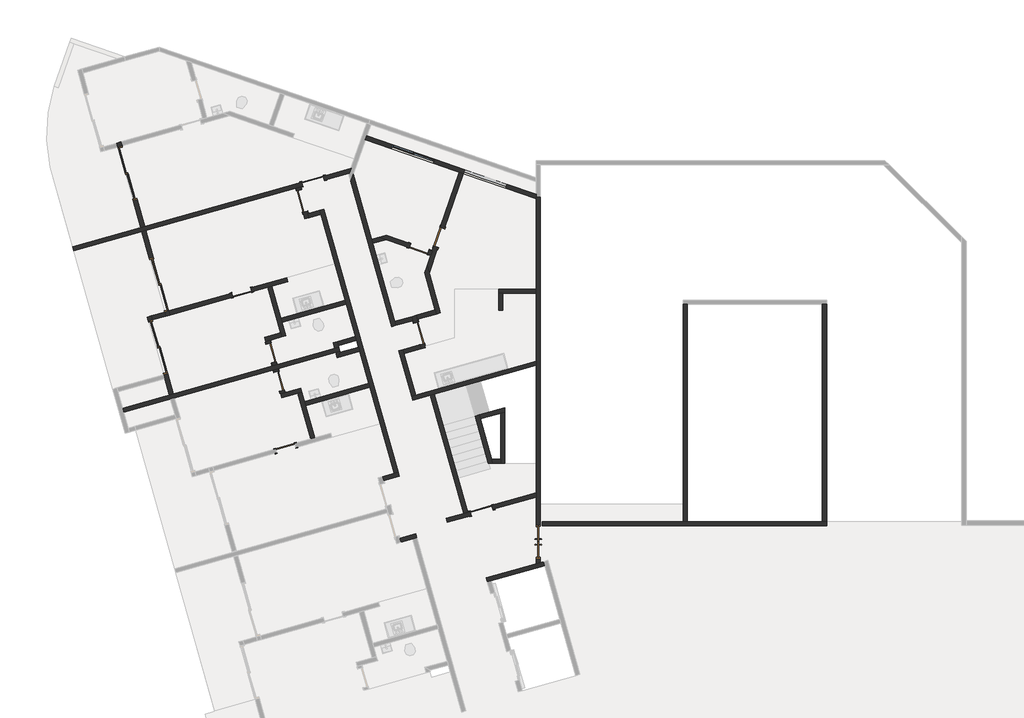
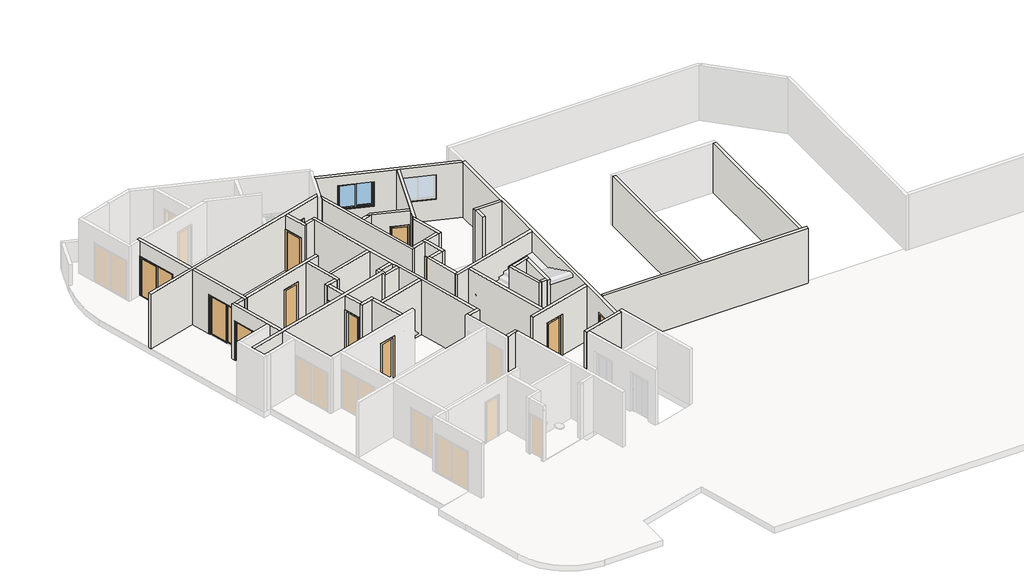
# One storey, part 2 of 9: 49 walls, 14 doors, 1 window.
"""IFC4 building model written with IfcOpenShell, lengths in millimetres."""

from ifc_helpers import new_model, si_unit, frame, origin, place, context, project, spatial, polyline, outline, extrude, faceted_brep, transform, mapped, element, save
from components import door_1_20_x_2_10_046a985c, p2_80cm_9d4be4ef, p2_80cm_083652d6, p3_70cm_ef4d15e3, p3_70cm_0a698c7c, p4_correr_200cm_eaaa0877, jx_160cm_e9e36a0c

model = new_model("IFC4")

# Units and contexts
model_context = context("Model", 3, world=origin())
ifc_project = project(units=[si_unit("LENGTHUNIT", "METRE", prefix="MILLI")], contexts=[model_context])

# Site, building, storey
site = spatial("IfcSite", under=ifc_project)
building = spatial("IfcBuilding", under=site)
storey = spatial("IfcBuildingStorey", under=building, Name="Garagem 1", Elevation=47850.0)

# Doors
placement = place(None, origin())
door_1_20_x_2_10_shape = door_1_20_x_2_10_046a985c(model_context)
element("IfcDoor", 1, ObjectType="Porta pivotante dupla sem revestimento : 1.20 x 2.10", at=placement, inside=storey, context=model_context, shape_type="MappedRepresentation", body=[
    mapped(door_1_20_x_2_10_shape, transform((-75072.8282189, 18002.5140353, 47850.0), x_axis=(0.0, -1.0, 0.0), y_axis=(1.0, 0.0, 0.0), z_axis=(0.0, 0.0, 1.0))),
])
p2_80cm_shape = p2_80cm_9d4be4ef(model_context)
element("IfcDoor", 2, ObjectType="M_Folha única1 : P2 - 80CM", at=placement, inside=storey, context=model_context, shape_type="MappedRepresentation", body=[
    mapped(p2_80cm_shape, transform((-83145.1128896, 30941.0402894, 47850.0), x_axis=(-0.9623628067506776, -0.2717679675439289, 0.0), y_axis=(0.2717679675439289, -0.9623628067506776, 0.0), z_axis=(0.0, 0.0, 1.0))),
])
element("IfcDoor", 3, ObjectType="M_Folha única1 : P2 - 80CM", at=placement, inside=storey, context=model_context, shape_type="MappedRepresentation", body=[
    mapped(p2_80cm_shape, transform((-79349.4097406, 25479.1041247, 47850.0), x_axis=(-0.27176796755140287, 0.962362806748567, 0.0), y_axis=(-0.962362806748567, -0.27176796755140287, 0.0), z_axis=(0.0, 0.0, 1.0))),
])
p2_80cm_2_shape = p2_80cm_083652d6(model_context)
element("IfcDoor", 4, ObjectType="M_Folha única1 : P2 - 80CM", at=placement, inside=storey, context=model_context, shape_type="MappedRepresentation", body=[
    mapped(p2_80cm_2_shape, transform((-83542.2049222, 30231.4150941, 47850.0), x_axis=(-0.2717679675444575, 0.9623628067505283, 0.0), y_axis=(-0.9623628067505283, -0.2717679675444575, 0.0), z_axis=(0.0, 0.0, 1.0))),
])
p3_70cm_shape = p3_70cm_ef4d15e3(model_context)
element("IfcDoor", 5, ObjectType="M_Folha única1 : P3 - 70CM", at=placement, inside=storey, context=model_context, shape_type="MappedRepresentation", body=[
    mapped(p3_70cm_shape, transform((-84129.1775441, 21363.1168842, 47850.0), x_axis=(0.9623628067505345, 0.27176796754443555, 0.0), y_axis=(-0.27176796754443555, 0.9623628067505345, 0.0), z_axis=(0.0, 0.0, 1.0))),
])
element("IfcDoor", 6, ObjectType="M_Folha única1 : P3 - 70CM", at=placement, inside=storey, context=model_context, shape_type="MappedRepresentation", body=[
    mapped(p3_70cm_shape, transform((-84650.97864, 24774.7108835, 47850.0), x_axis=(0.2717679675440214, -0.9623628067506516, 0.0), y_axis=(0.9623628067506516, 0.2717679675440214, 0.0), z_axis=(0.0, 0.0, 1.0))),
])
p3_70cm_2_shape = p3_70cm_0a698c7c(model_context)
element("IfcDoor", 7, ObjectType="M_Folha única1 : P3 - 70CM", at=placement, inside=storey, context=model_context, shape_type="MappedRepresentation", body=[
    mapped(p3_70cm_2_shape, transform((-84365.6222741, 23764.2299364, 47850.0), x_axis=(-0.2717679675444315, 0.9623628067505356, 0.0), y_axis=(-0.9623628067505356, -0.2717679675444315, 0.0), z_axis=(0.0, 0.0, 1.0))),
])
element("IfcDoor", 8, ObjectType="M_Folha única1 : P3 - 70CM", at=placement, inside=storey, context=model_context, shape_type="MappedRepresentation", body=[
    mapped(p3_70cm_2_shape, transform((-85705.4317558, 26944.8211633, 47850.0), x_axis=(0.9623628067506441, 0.2717679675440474, 0.0), y_axis=(-0.2717679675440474, 0.9623628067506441, 0.0), z_axis=(0.0, 0.0, 1.0))),
])
element("IfcDoor", 9, ObjectType="M_Folha única1 : P3 - 70CM", at=placement, inside=storey, context=model_context, shape_type="MappedRepresentation", body=[
    mapped(p3_70cm_2_shape, transform((-79346.1223746, 28509.6973665, 47850.0), x_axis=(0.9449109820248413, -0.32732741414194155, 0.0), y_axis=(0.32732741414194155, 0.9449109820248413, 0.0), z_axis=(0.0, 0.0, 1.0))),
])
element("IfcDoor", 10, ObjectType="M_Folha única1 : P3 - 70CM", at=placement, inside=storey, context=model_context, shape_type="MappedRepresentation", body=[
    mapped(p3_70cm_2_shape, transform((-78626.5662556, 28921.8732895, 47850.0), x_axis=(-0.32732741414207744, -0.9449109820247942, 0.0), y_axis=(0.9449109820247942, -0.32732741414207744, 0.0), z_axis=(0.0, 0.0, 1.0))),
])
p4_correr_200cm_shape = p4_correr_200cm_eaaa0877(model_context)
element("IfcDoor", 11, ObjectType="Porta de correr dupla envidraçada sem revestimento : P4 - CORRER - 200CM", at=placement, inside=storey, context=model_context, shape_type="MappedRepresentation", body=[
    mapped(p4_correr_200cm_shape, transform((-89799.7974026, 31217.9316171, 47850.0), x_axis=(0.27176796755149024, -0.9623628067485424, 0.0), y_axis=(0.9623628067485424, 0.27176796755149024, 0.0), z_axis=(0.0, 0.0, 1.0))),
])
element("IfcDoor", 12, ObjectType="Porta de correr dupla envidraçada sem revestimento : P4 - CORRER - 200CM", at=placement, inside=storey, context=model_context, shape_type="MappedRepresentation", body=[
    mapped(p4_correr_200cm_shape, transform((-88671.9603372, 27224.125969, 47850.0), x_axis=(-0.27176796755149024, 0.9623628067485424, 0.0), y_axis=(-0.9623628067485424, -0.27176796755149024, 0.0), z_axis=(0.0, 0.0, 1.0))),
])
element("IfcDoor", 13, ObjectType="Porta de correr dupla envidraçada sem revestimento : P4 - CORRER - 200CM", at=placement, inside=storey, context=model_context, shape_type="MappedRepresentation", body=[
    mapped(p4_correr_200cm_shape, transform((-88709.3738038, 24979.4758572, 47850.0), x_axis=(-0.2717679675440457, 0.9623628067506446, 0.0), y_axis=(-0.9623628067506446, -0.2717679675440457, 0.0), z_axis=(0.0, 0.0, 1.0))),
])
element("IfcDoor", 14, ObjectType="M_Folha única1 : PCF1 - 80CM", at=placement, inside=storey, context=model_context, shape_type="MappedRepresentation", body=[
    mapped(p2_80cm_shape, transform((-77103.5502958, 19127.1105693, 47850.0), x_axis=(-0.9623628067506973, -0.2717679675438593, 0.0), y_axis=(0.2717679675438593, -0.9623628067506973, 0.0), z_axis=(0.0, 0.0, 1.0))),
])

# Walls
element("IfcWall", 15, ObjectType="Básica .15 -  Interna", at=placement, inside=storey, context=model_context, shape_type="Brep", body=[
    faceted_brep([(-82901.0804648, 29892.9118737, 47850.0), (-82860.3152697, 29748.5574527, 47850.0), (-81990.6577736, 26668.9964711, 47850.0), (-81949.8925784, 26524.6420501, 47850.0), (-81623.7710174, 25369.806682, 47850.0), (-81583.0058223, 25225.452261, 47850.0), (-81515.0638304, 24984.8615593, 47850.0), (-81474.2986352, 24840.5071383, 47850.0), (-81148.1770742, 23685.6717702, 47850.0), (-81107.4118791, 23541.3173492, 47850.0), (-80237.7543829, 20461.7563676, 47850.0), (-80237.7543829, 20461.7563676, 50750.0), (-81107.4118791, 23541.3173492, 50750.0), (-81148.1770742, 23685.6717702, 50750.0), (-81474.2986352, 24840.5071383, 50750.0), (-81515.0638304, 24984.8615593, 50750.0), (-81583.0058223, 25225.452261, 50750.0), (-81623.7710174, 25369.806682, 50750.0), (-81949.8925784, 26524.6420501, 50750.0), (-81990.6577736, 26668.9964711, 50750.0), (-82860.3152697, 29748.5574527, 50750.0), (-82901.0804648, 29892.9118737, 50750.0), (-82756.7260438, 29933.6770689, 47850.0), (-82756.7260438, 29933.6770689, 50750.0), (-80093.3999619, 20502.5215627, 50750.0), (-80093.3999619, 20502.5215627, 47850.0)], [[[0, 1, 2, 3, 4, 5, 6, 7, 8, 9, 10, 11, 12, 13, 14, 15, 16, 17, 18, 19, 20, 21]], [[22, 23, 24, 25]], [[10, 9, 8, 7, 6, 5, 4, 3, 2, 1, 0, 22, 25]], [[21, 20, 19, 18, 17, 16, 15, 14, 13, 12, 11, 24, 23]], [[0, 21, 23, 22]], [[11, 10, 25, 24]]]),
])
element("IfcWall", 16, ObjectType="Básica .15 -  Interna", at=placement, inside=storey, context=model_context, shape_type="Brep", body=[
    faceted_brep([(-83750.2661164, 30692.2138999, 47850.0), (-83723.0893197, 30595.9776193, 47850.0), (-83723.0893197, 30595.9776193, 49950.0), (-83505.6749457, 29826.0873739, 49950.0), (-83505.6749457, 29826.0873739, 47850.0), (-83437.7329538, 29585.4966722, 47850.0), (-83437.7329538, 29585.4966722, 50750.0), (-83750.2661164, 30692.2138999, 50750.0), (-83578.7348987, 30636.7428144, 49950.0), (-83578.7348987, 30636.7428144, 47850.0), (-83605.9116954, 30732.9790951, 47850.0), (-83605.9116954, 30732.9790951, 50750.0), (-83334.1437279, 29770.6162883, 50750.0), (-83293.3785328, 29626.2618673, 50750.0), (-83293.3785328, 29626.2618673, 47850.0), (-83334.1437279, 29770.6162883, 47850.0), (-83361.3205246, 29866.852569, 47850.0), (-83361.3205246, 29866.852569, 49950.0)], [[[0, 1, 2, 3, 4, 5, 6, 7]], [[8, 9, 10, 11, 12, 13, 14, 15, 16, 17]], [[10, 9, 1, 0]], [[16, 15, 14, 5, 4]], [[7, 6, 13, 12, 11]], [[6, 5, 14, 13]], [[0, 7, 11, 10]], [[2, 1, 9, 8]], [[3, 2, 8, 17]], [[4, 3, 17, 16]]]),
])
element("IfcWall", 17, ObjectType="Básica .15 -  Interna", at=placement, inside=storey, context=model_context, shape_type="SweptSolid", body=[
    extrude(outline(polyline([(-82860.3152697, 29748.5574527), (-83293.3785328, 29626.2618673), (-83334.1437279, 29770.6162883), (-82901.0804648, 29892.9118737), (-82860.3152697, 29748.5574527)])), frame((0.0, 0.0, 47850.0), z_axis=(0.0, 0.0, 1.0), x_axis=(1.0, 0.0, 0.0)), (0.0, 0.0, 1.0), 2900.0),
])
element("IfcWall", 18, ObjectType="Básica .15 -  Interna", at=placement, inside=storey, context=model_context, shape_type="Brep", body=[
    faceted_brep([(-80093.3999619, 20502.5215627, 47850.0), (-80237.7543829, 20461.7563676, 47850.0), (-80670.817646, 20339.4607822, 47850.0), (-80670.817646, 20339.4607822, 50750.0), (-80237.7543829, 20461.7563676, 50750.0), (-80093.3999619, 20502.5215627, 50750.0), (-80052.6347668, 20358.1671417, 47850.0), (-80052.6347668, 20358.1671417, 50750.0), (-80630.0524508, 20195.1063612, 50750.0), (-80630.0524508, 20195.1063612, 47850.0)], [[[0, 1, 2, 3, 4, 5]], [[6, 7, 8, 9]], [[2, 1, 0, 6, 9]], [[5, 4, 3, 8, 7]], [[3, 2, 9, 8]], [[0, 5, 7, 6]]]),
])
element("IfcWall", 19, ObjectType="Básica .15 -  Interna", at=placement, inside=storey, context=model_context, shape_type="Brep", body=[
    faceted_brep([(-80004.9861255, 17981.6719056, 47850.0), (-79571.9228624, 18103.967491, 47850.0), (-79427.5684414, 18144.7326862, 47850.0), (-79427.5684414, 18144.7326862, 50750.0), (-79571.9228624, 18103.967491, 50750.0), (-80004.9861255, 17981.6719056, 50750.0), (-80045.7513206, 18126.0263266, 47850.0), (-80045.7513206, 18126.0263266, 50750.0), (-79468.3336366, 18289.0871072, 50750.0), (-79468.3336366, 18289.0871072, 47850.0)], [[[0, 1, 2, 3, 4, 5]], [[6, 7, 8, 9]], [[2, 1, 0, 6, 9]], [[5, 4, 3, 8, 7]], [[3, 2, 9, 8]], [[0, 5, 7, 6]]]),
])
element("IfcWall", 20, ObjectType="Básica .15 -  Interna", at=placement, inside=storey, context=model_context, shape_type="Brep", body=[
    faceted_brep([(-88305.9570711, 23274.9583478, 50750.0), (-88469.0178517, 23852.3760319, 50750.0), (-88509.7830468, 23996.7304529, 50750.0), (-89094.084177, 26065.8104874, 50750.0), (-89094.084177, 26065.8104874, 47850.0), (-89053.3189819, 25921.4560664, 47850.0), (-89053.3189819, 25921.4560664, 49950.0), (-88509.7830468, 23996.7304529, 49950.0), (-88509.7830468, 23996.7304529, 47850.0), (-88469.0178517, 23852.3760319, 47850.0), (-88305.9570711, 23274.9583478, 47850.0), (-88949.729756, 26106.5756825, 50750.0), (-88908.9645609, 25962.2212615, 50750.0), (-88161.6026501, 23315.723543, 50750.0), (-88161.6026501, 23315.723543, 47850.0), (-88365.4286258, 24037.495648, 47850.0), (-88365.4286258, 24037.495648, 49950.0), (-88908.9645609, 25962.2212615, 49950.0), (-88908.9645609, 25962.2212615, 47850.0), (-88949.729756, 26106.5756825, 47850.0)], [[[0, 1, 2, 3, 4, 5, 6, 7, 8, 9, 10]], [[11, 12, 13, 14, 15, 16, 17, 18, 19]], [[4, 19, 18, 5]], [[14, 10, 9, 8, 15]], [[3, 2, 1, 0, 13, 12, 11]], [[4, 3, 11, 19]], [[0, 10, 14, 13]], [[17, 6, 5, 18]], [[6, 17, 16, 7]], [[7, 16, 15, 8]]]),
])
element("IfcWall", 21, ObjectType="Básica .15 -  Interna", at=placement, inside=storey, context=model_context, shape_type="Brep", body=[
    faceted_brep([(-89143.3190618, 29169.2341801, 50750.0), (-88328.0151592, 26282.1457598, 50750.0), (-88287.249964, 26137.7913388, 50750.0), (-88287.249964, 26137.7913388, 47850.0), (-88328.0151592, 26282.1457598, 47850.0), (-88328.0151592, 26282.1457598, 49950.0), (-88871.5510943, 28206.8713733, 49950.0), (-88871.5510943, 28206.8713733, 47850.0), (-89143.3190618, 29169.2341801, 47850.0), (-88431.604385, 26097.0261437, 50750.0), (-88472.3695802, 26241.3805647, 50750.0), (-89287.6734828, 29128.468985, 50750.0), (-89287.6734828, 29128.468985, 47850.0), (-89015.9055153, 28166.1061782, 47850.0), (-89015.9055153, 28166.1061782, 49950.0), (-88472.3695802, 26241.3805647, 49950.0), (-88472.3695802, 26241.3805647, 47850.0), (-88431.604385, 26097.0261437, 47850.0)], [[[0, 1, 2, 3, 4, 5, 6, 7, 8]], [[9, 10, 11, 12, 13, 14, 15, 16, 17]], [[3, 17, 16, 4]], [[12, 8, 7, 13]], [[2, 1, 0, 11, 10, 9]], [[3, 2, 9, 17]], [[0, 8, 12, 11]], [[6, 14, 13, 7]], [[14, 6, 5, 15]], [[15, 5, 4, 16]]]),
])
element("IfcWall", 22, ObjectType="Básica .15 -  Interna", at=placement, inside=storey, context=model_context, shape_type="Brep", body=[
    faceted_brep([(-76904.7538909, 16570.3643175, 47850.0), (-76760.3994699, 16611.1295126, 47850.0), (-74840.4856705, 17153.3066079, 47850.0), (-74840.4856705, 17153.3066079, 50750.0), (-76760.3994699, 16611.1295126, 50750.0), (-76904.7538909, 16570.3643175, 50750.0), (-76945.5190861, 16714.7187385, 47850.0), (-76945.5190861, 16714.7187385, 50750.0), (-75147.8282189, 17222.3804954, 50750.0), (-74997.8282189, 17264.7399828, 50750.0), (-74881.2508656, 17297.6610289, 50750.0), (-74881.2508656, 17297.6610289, 47850.0), (-74997.8282189, 17264.7399828, 47850.0), (-75147.8282189, 17222.3804954, 47850.0)], [[[0, 1, 2, 3, 4, 5]], [[6, 7, 8, 9, 10, 11, 12, 13]], [[2, 1, 0, 6, 13, 12, 11]], [[5, 4, 3, 10, 9, 8, 7]], [[0, 5, 7, 6]], [[3, 2, 11, 10]]]),
])
element("IfcWall", 23, ObjectType="Básica .15 -  Interna", at=placement, inside=storey, context=model_context, shape_type="Brep", body=[
    faceted_brep([(-79570.9048554, 23078.5590693, 47850.0), (-78948.2127609, 23254.4051886, 47850.0), (-78803.8582924, 23295.1703972, 47850.0), (-75147.8282189, 24327.6207947, 47850.0), (-75147.8282189, 24327.6207947, 50750.0), (-78803.8582924, 23295.1703972, 50750.0), (-78948.2127609, 23254.4051886, 50750.0), (-79570.9048554, 23078.5590693, 50750.0), (-79611.6700506, 23222.9134903, 47850.0), (-79611.6700506, 23222.9134903, 50750.0), (-79467.3156296, 23263.6786855, 50750.0), (-75147.8282189, 24483.4871675, 50750.0), (-75147.8282189, 24483.4871675, 47850.0), (-79467.3156296, 23263.6786855, 47850.0)], [[[0, 1, 2, 3, 4, 5, 6, 7]], [[8, 9, 10, 11, 12, 13]], [[3, 2, 1, 0, 8, 13, 12]], [[7, 6, 5, 4, 11, 10, 9]], [[0, 7, 9, 8]], [[4, 3, 12, 11]]]),
])
element("IfcWall", 24, ObjectType="Básica .15 -  Interna", at=placement, inside=storey, context=model_context, shape_type="SweptSolid", body=[
    extrude(outline(polyline([(-77749.4687652, 19022.6385875), (-78948.2127609, 23254.4051886), (-78803.8582924, 23295.1703972), (-77605.1142967, 19063.4037961), (-77749.4687652, 19022.6385875)])), frame((0.0, 0.0, 47850.0), z_axis=(0.0, 0.0, 1.0), x_axis=(1.0, 0.0, 0.0)), (0.0, 0.0, 1.0), 2900.0),
])
element("IfcWall", 25, ObjectType="Básica .15 -  Interna", at=placement, inside=storey, context=model_context, shape_type="Brep", body=[
    faceted_brep([(-77508.878016, 19090.5805928, 49950.0), (-77508.878016, 19090.5805928, 47850.0), (-77605.1142967, 19063.4037961, 47850.0), (-77749.4687652, 19022.6385875, 47850.0), (-78375.5945972, 18845.8227925, 47850.0), (-78375.5945972, 18845.8227925, 50750.0), (-77749.4687652, 19022.6385875, 50750.0), (-77605.1142967, 19063.4037961, 50750.0), (-75147.8282189, 19757.3329862, 50750.0), (-75147.8282189, 19757.3329862, 47850.0), (-76738.9877706, 19307.9949669, 47850.0), (-76738.9877706, 19307.9949669, 49950.0), (-78334.829402, 18701.4683715, 47850.0), (-77468.1128209, 18946.2261718, 47850.0), (-77468.1128209, 18946.2261718, 49950.0), (-76698.2225755, 19163.6405459, 49950.0), (-76698.2225755, 19163.6405459, 47850.0), (-75147.8282189, 19601.4666134, 47850.0), (-75147.8282189, 19601.4666134, 50750.0), (-78334.829402, 18701.4683715, 50750.0)], [[[0, 1, 2, 3, 4, 5, 6, 7, 8, 9, 10, 11]], [[12, 13, 14, 15, 16, 17, 18, 19]], [[10, 9, 17, 16]], [[4, 3, 2, 1, 13, 12]], [[5, 4, 12, 19]], [[8, 7, 6, 5, 19, 18]], [[14, 13, 1, 0]], [[15, 14, 0, 11]], [[16, 15, 11, 10]], [[9, 8, 18, 17]]]),
])
element("IfcWall", 26, ObjectType="Básica .15 -  Interna", at=placement, inside=storey, context=model_context, shape_type="Brep", body=[
    faceted_brep([(-75147.8282189, 17222.3804954, 50750.0), (-75147.8282189, 19601.4666134, 50750.0), (-75147.8282189, 19757.3329862, 50750.0), (-75147.8282189, 24327.6207947, 50750.0), (-75147.8282189, 24483.4871675, 50750.0), (-75147.8282189, 26910.8243598, 50750.0), (-75147.8282189, 27060.8243598, 50750.0), (-75147.8282189, 30302.8666514, 50750.0), (-75147.8282189, 30356.258394, 50750.0), (-75147.8282189, 30356.258394, 47850.0), (-75147.8282189, 30302.8666514, 47850.0), (-75147.8282189, 27060.8243598, 47850.0), (-75147.8282189, 26910.8243598, 47850.0), (-75147.8282189, 24483.4871675, 47850.0), (-75147.8282189, 24327.6207947, 47850.0), (-75147.8282189, 19757.3329862, 47850.0), (-75147.8282189, 19601.4666134, 47850.0), (-75147.8282189, 18602.5140353, 47850.0), (-75147.8282189, 18602.5140353, 49950.0), (-75147.8282189, 17402.5140353, 49950.0), (-75147.8282189, 17402.5140353, 47850.0), (-75147.8282189, 17222.3804954, 47850.0), (-74997.8282189, 30356.258394, 50750.0), (-74997.8282189, 17264.7399828, 50750.0), (-74997.8282189, 17264.7399828, 47850.0), (-74997.8282189, 17402.5140353, 47850.0), (-74997.8282189, 17402.5140353, 49950.0), (-74997.8282189, 18602.5140353, 49950.0), (-74997.8282189, 18602.5140353, 47850.0), (-74997.8282189, 30356.258394, 47850.0)], [[[0, 1, 2, 3, 4, 5, 6, 7, 8, 9, 10, 11, 12, 13, 14, 15, 16, 17, 18, 19, 20, 21]], [[22, 23, 24, 25, 26, 27, 28, 29]], [[24, 21, 20, 25]], [[9, 29, 28, 17, 16, 15, 14, 13, 12, 11, 10]], [[8, 7, 6, 5, 4, 3, 2, 1, 0, 23, 22]], [[9, 8, 22, 29]], [[0, 21, 24, 23]], [[19, 26, 25, 20]], [[26, 19, 18, 27]], [[27, 18, 17, 28]]]),
])
element("IfcWall", 27, ObjectType="Básica .15 -  Interna", at=placement, inside=storey, context=model_context, shape_type="Brep", body=[
    faceted_brep([(-80073.6755954, 24858.9302618, 47850.0), (-79611.6700506, 23222.9134903, 47850.0), (-79611.6700506, 23222.9134903, 50750.0), (-80073.6755954, 24858.9302618, 50750.0), (-79929.3211744, 24899.695457, 47850.0), (-79929.3211744, 24899.695457, 50750.0), (-79888.5559793, 24755.3410359, 50750.0), (-79467.3156296, 23263.6786855, 50750.0), (-79467.3156296, 23263.6786855, 47850.0), (-79888.5559793, 24755.3410359, 47850.0)], [[[0, 1, 2, 3]], [[4, 5, 6, 7, 8, 9]], [[1, 0, 4, 9, 8]], [[3, 2, 7, 6, 5]], [[0, 3, 5, 4]], [[2, 1, 8, 7]]]),
])
element("IfcWall", 28, ObjectType="Básica .15 -  Interna", at=placement, inside=storey, context=model_context, shape_type="Brep", body=[
    faceted_brep([(-79888.5559793, 24755.3410359, 47850.0), (-79272.1145689, 24929.4219834, 47850.0), (-79272.1145689, 24929.4219834, 50750.0), (-79888.5559793, 24755.3410359, 50750.0), (-79929.3211744, 24899.695457, 47850.0), (-79929.3211744, 24899.695457, 50750.0), (-79312.8797641, 25073.7764044, 50750.0), (-79312.8797641, 25073.7764044, 49950.0), (-79312.8797641, 25073.7764044, 47850.0)], [[[0, 1, 2, 3]], [[4, 5, 6, 7, 8]], [[1, 0, 4, 8]], [[3, 2, 6, 5]], [[0, 3, 5, 4]], [[2, 1, 8, 7, 6]]]),
])
element("IfcWall", 29, ObjectType="Básica .15 -  Interna", at=placement, inside=storey, context=model_context, shape_type="Brep", body=[
    faceted_brep([(-79598.23613, 26084.2573515, 47850.0), (-79557.4709349, 25939.9029305, 47850.0), (-79530.2941381, 25843.6666498, 47850.0), (-79530.2941381, 25843.6666498, 49950.0), (-79312.8797641, 25073.7764044, 49950.0), (-79312.8797641, 25073.7764044, 47850.0), (-79272.1145689, 24929.4219834, 47850.0), (-79272.1145689, 24929.4219834, 50750.0), (-79312.8797641, 25073.7764044, 50750.0), (-79557.4709349, 25939.9029305, 50750.0), (-79598.23613, 26084.2573515, 50750.0), (-79385.9397171, 25884.4318449, 49950.0), (-79385.9397171, 25884.4318449, 47850.0), (-79413.1165138, 25980.6681256, 47850.0), (-79453.881709, 26125.0225466, 47850.0), (-79453.881709, 26125.0225466, 50750.0), (-79413.1165138, 25980.6681256, 50750.0), (-79127.7601479, 24970.1871785, 50750.0), (-79127.7601479, 24970.1871785, 47850.0), (-79168.5253431, 25114.5415995, 47850.0), (-79168.5253431, 25114.5415995, 49950.0)], [[[0, 1, 2, 3, 4, 5, 6, 7, 8, 9, 10]], [[11, 12, 13, 14, 15, 16, 17, 18, 19, 20]], [[19, 18, 6, 5]], [[14, 13, 12, 2, 1, 0]], [[10, 9, 8, 7, 17, 16, 15]], [[7, 6, 18, 17]], [[0, 10, 15, 14]], [[3, 2, 12, 11]], [[4, 3, 11, 20]], [[5, 4, 20, 19]]]),
])
element("IfcWall", 30, ObjectType="Básica .15 -  Interna", at=placement, inside=storey, context=model_context, shape_type="Brep", body=[
    faceted_brep([(-81789.2550074, 30934.0017027, 47850.0), (-80318.2667662, 25725.0567879, 47850.0), (-80318.2667662, 25725.0567879, 50750.0), (-81789.2550074, 30934.0017027, 50750.0), (-81703.3880158, 31181.8778654, 47850.0), (-81703.3880158, 31181.8778654, 50750.0), (-81045.1503443, 28850.9797144, 50750.0), (-81004.3851492, 28706.6252933, 50750.0), (-80214.6775403, 25910.176404, 50750.0), (-80173.9123452, 25765.821983, 50750.0), (-80173.9123452, 25765.821983, 47850.0), (-80214.6775403, 25910.176404, 47850.0), (-81004.3851492, 28706.6252933, 47850.0), (-81045.1503443, 28850.9797144, 47850.0)], [[[0, 1, 2, 3]], [[4, 5, 6, 7, 8, 9, 10, 11, 12, 13]], [[1, 0, 4, 13, 12, 11, 10]], [[3, 2, 9, 8, 7, 6, 5]], [[0, 3, 5, 4]], [[2, 1, 10, 9]]]),
])
element("IfcWall", 31, ObjectType="Básica .15 -  Interna", at=placement, inside=storey, context=model_context, shape_type="Brep", body=[
    faceted_brep([(-88908.9645609, 25962.2212615, 47850.0), (-88431.604385, 26097.0261437, 47850.0), (-88431.604385, 26097.0261437, 50750.0), (-88908.9645609, 25962.2212615, 50750.0), (-88908.9645609, 25962.2212615, 49950.0), (-88949.729756, 26106.5756825, 47850.0), (-88949.729756, 26106.5756825, 50750.0), (-88472.3695802, 26241.3805647, 50750.0), (-88472.3695802, 26241.3805647, 47850.0)], [[[0, 1, 2, 3, 4]], [[5, 6, 7, 8]], [[1, 0, 5, 8]], [[3, 2, 7, 6]], [[0, 4, 3, 6, 5]], [[2, 1, 8, 7]]]),
])
element("IfcWall", 32, ObjectType="Básica .15 -  Interna", at=placement, inside=storey, context=model_context, shape_type="SweptSolid", body=[
    extrude(outline(polyline([(-79557.4709349, 25939.9029305), (-80173.9123452, 25765.821983), (-80214.6775403, 25910.176404), (-79598.23613, 26084.2573515), (-79557.4709349, 25939.9029305)])), frame((0.0, 0.0, 47850.0), z_axis=(0.0, 0.0, 1.0), x_axis=(1.0, 0.0, 0.0)), (0.0, 0.0, 1.0), 2900.0),
])
element("IfcWall", 33, ObjectType="Básica .15 -  Interna", at=placement, inside=storey, context=model_context, shape_type="Brep", body=[
    faceted_brep([(-91725.2428613, 28440.1077234, 47850.0), (-89287.6734828, 29128.468985, 47850.0), (-89143.3190618, 29169.2341801, 47850.0), (-83750.2661164, 30692.2138999, 47850.0), (-83605.9116954, 30732.9790951, 47850.0), (-83509.6754148, 30760.1558918, 47850.0), (-83509.6754148, 30760.1558918, 49950.0), (-82739.7851694, 30977.5702659, 49950.0), (-82739.7851694, 30977.5702659, 47850.0), (-81845.4155775, 31230.1371819, 47850.0), (-81845.4155775, 31230.1371819, 50750.0), (-83605.9116954, 30732.9790951, 50750.0), (-83750.2661164, 30692.2138999, 50750.0), (-89143.3190618, 29169.2341801, 50750.0), (-89287.6734828, 29128.468985, 50750.0), (-91725.2428613, 28440.1077234, 50750.0), (-83550.4406099, 30904.5103128, 49950.0), (-83550.4406099, 30904.5103128, 47850.0), (-89184.084257, 29313.5886011, 47850.0), (-89328.438678, 29272.823406, 47850.0), (-91766.0080564, 28584.4621444, 47850.0), (-91766.0080564, 28584.4621444, 50750.0), (-89328.438678, 29272.823406, 50750.0), (-89184.084257, 29313.5886011, 50750.0), (-81785.5670817, 31402.9045654, 50750.0), (-81785.5670817, 31402.9045654, 47850.0), (-82780.5503645, 31121.9246869, 47850.0), (-82780.5503645, 31121.9246869, 49950.0)], [[[0, 1, 2, 3, 4, 5, 6, 7, 8, 9, 10, 11, 12, 13, 14, 15]], [[16, 17, 18, 19, 20, 21, 22, 23, 24, 25, 26, 27]], [[26, 25, 9, 8]], [[20, 19, 18, 17, 5, 4, 3, 2, 1, 0]], [[15, 14, 13, 12, 11, 10, 24, 23, 22, 21]], [[0, 15, 21, 20]], [[10, 9, 25, 24]], [[6, 5, 17, 16]], [[7, 6, 16, 27]], [[8, 7, 27, 26]]]),
])
element("IfcWall", 34, ObjectType="Básica .15 -  Interna", at=placement, inside=storey, context=model_context, shape_type="Brep", body=[
    faceted_brep([(-90040.1533547, 32345.0314424, 50750.0), (-89999.3881596, 32200.6770214, 50750.0), (-89184.084257, 29313.5886011, 50750.0), (-89184.084257, 29313.5886011, 47850.0), (-89455.8522245, 30275.9514079, 47850.0), (-89455.8522245, 30275.9514079, 49950.0), (-89999.3881596, 32200.6770214, 49950.0), (-89999.3881596, 32200.6770214, 47850.0), (-90040.1533547, 32345.0314424, 47850.0), (-89328.438678, 29272.823406, 50750.0), (-90143.7425806, 32159.9118263, 50750.0), (-90184.5077758, 32304.2662473, 50750.0), (-90184.5077758, 32304.2662473, 47850.0), (-90143.7425806, 32159.9118262, 47850.0), (-90143.7425806, 32159.9118262, 49950.0), (-89600.2066455, 30235.1862128, 49950.0), (-89600.2066455, 30235.1862128, 47850.0), (-89328.438678, 29272.823406, 47850.0)], [[[0, 1, 2, 3, 4, 5, 6, 7, 8]], [[9, 10, 11, 12, 13, 14, 15, 16, 17]], [[12, 8, 7, 13]], [[3, 17, 16, 4]], [[2, 1, 0, 11, 10, 9]], [[0, 8, 12, 11]], [[3, 2, 9, 17]], [[15, 5, 4, 16]], [[5, 15, 14, 6]], [[6, 14, 13, 7]]]),
])
element("IfcWall", 35, ObjectType="Básica .15 -  Interna", at=placement, inside=storey, context=model_context, shape_type="Brep", body=[
    faceted_brep([(-89936.6922366, 22658.5779377, 47850.0), (-88265.191876, 23130.6039268, 47850.0), (-88120.837455, 23171.369122, 47850.0), (-84560.09507, 24176.9106019, 47850.0), (-84415.740649, 24217.675797, 47850.0), (-82192.6825654, 24845.459802, 47850.0), (-82192.6825654, 24845.459802, 50750.0), (-84415.740649, 24217.675797, 50750.0), (-84560.09507, 24176.9106019, 50750.0), (-88120.837455, 23171.369122, 50750.0), (-88265.191876, 23130.6039268, 50750.0), (-89936.6922366, 22658.5779377, 50750.0), (-89977.4574318, 22802.9323587, 47850.0), (-89977.4574318, 22802.9323587, 50750.0), (-88305.9570711, 23274.9583478, 50750.0), (-88161.6026501, 23315.723543, 50750.0), (-84600.8602651, 24321.2650229, 50750.0), (-84456.5058441, 24362.030218, 50750.0), (-82233.4477605, 24989.814223, 50750.0), (-82233.4477605, 24989.814223, 47850.0), (-84456.5058441, 24362.030218, 47850.0), (-84600.8602651, 24321.2650229, 47850.0), (-88161.6026501, 23315.723543, 47850.0), (-88305.9570711, 23274.9583478, 47850.0)], [[[0, 1, 2, 3, 4, 5, 6, 7, 8, 9, 10, 11]], [[12, 13, 14, 15, 16, 17, 18, 19, 20, 21, 22, 23]], [[5, 4, 3, 2, 1, 0, 12, 23, 22, 21, 20, 19]], [[6, 5, 19, 18]], [[11, 10, 9, 8, 7, 6, 18, 17, 16, 15, 14, 13]], [[0, 11, 13, 12]]]),
])
element("IfcWall", 36, ObjectType="Básica .15 -  Interna", at=placement, inside=storey, context=model_context, shape_type="Brep", body=[
    faceted_brep([(-81272.8781344, 32424.6503839, 47850.0), (-77897.5766162, 31255.4093243, 47850.0), (-77755.8399689, 31206.3102121, 47850.0), (-75147.8282189, 30302.8666514, 47850.0), (-75147.8282189, 30302.8666514, 50750.0), (-77755.8399689, 31206.3102121, 50750.0), (-77897.5766162, 31255.4093243, 50750.0), (-81272.8781344, 32424.6503839, 50750.0), (-78829.2985897, 31578.1679228, 48950.0), (-80341.1561609, 32101.8917854, 48950.0), (-80341.1561609, 32101.8917854, 50250.0), (-78829.2985897, 31578.1679228, 50250.0), (-76243.9823976, 30682.5863495, 48950.0), (-77755.8399689, 31206.3102121, 48950.0), (-77755.8399689, 31206.3102121, 50250.0), (-76243.9823976, 30682.5863495, 50250.0), (-81223.7790223, 32566.3870312, 47850.0), (-81223.7790223, 32566.3870312, 50750.0), (-75147.8282189, 30461.6117638, 50750.0), (-75147.8282189, 30461.6117638, 47850.0), (-78780.1994776, 31719.9045701, 48950.0), (-78780.1994776, 31719.9045701, 50250.0), (-80292.0570488, 32243.6284327, 50250.0), (-80292.0570488, 32243.6284327, 48950.0), (-76194.8832855, 30824.3229968, 48950.0), (-76194.8832855, 30824.3229968, 50250.0), (-77706.7408568, 31348.0468595, 50250.0), (-77706.7408568, 31348.0468595, 48950.0), (-75147.8282189, 30356.258394, 47850.0), (-75147.8282189, 30356.258394, 50750.0)], [[[0, 1, 2, 3, 4, 5, 6, 7], [8, 9, 10, 11], [12, 13, 14, 15]], [[16, 17, 18, 19], [20, 21, 22, 23], [24, 25, 26, 27]], [[3, 2, 1, 0, 16, 19, 28]], [[7, 6, 5, 4, 29, 18, 17]], [[0, 7, 17, 16]], [[21, 20, 8, 11]], [[22, 21, 11, 10]], [[23, 22, 10, 9]], [[20, 23, 9, 8]], [[25, 24, 12, 15]], [[26, 25, 15, 14]], [[27, 26, 14, 13]], [[24, 27, 13, 12]], [[4, 3, 28, 19, 18, 29]]]),
])
element("IfcWall", 37, ObjectType="Básica .15 -  Interna", at=placement, inside=storey, context=model_context, shape_type="SweptSolid", body=[
    extrude(outline(polyline([(-82179.094167, 24797.3416617), (-81515.0638304, 24984.8615593), (-81474.2986352, 24840.5071383), (-82282.6833929, 24612.2220455), (-82179.094167, 24797.3416617)])), frame((0.0, 0.0, 47850.0), z_axis=(0.0, 0.0, 1.0), x_axis=(1.0, 0.0, 0.0)), (0.0, 0.0, 1.0), 2900.0),
])
element("IfcWall", 38, ObjectType="Básica .15 -  Interna", at=placement, inside=storey, context=model_context, shape_type="SweptSolid", body=[
    extrude(outline(polyline([(-82192.6825654, 24845.459802), (-82179.094167, 24797.3416617), (-82282.6833929, 24612.2220455), (-82337.0369864, 24804.6946069), (-82192.6825654, 24845.459802)])), frame((0.0, 0.0, 47850.0), z_axis=(0.0, 0.0, 1.0), x_axis=(1.0, 0.0, 0.0)), (0.0, 0.0, 1.0), 2900.0),
])
element("IfcWall", 39, ObjectType="Básica .15 -  Interna", at=placement, inside=storey, context=model_context, shape_type="Brep", body=[
    faceted_brep([(-83593.7317942, 23514.6100515, 47850.0), (-84171.1494782, 23351.5492709, 47850.0), (-84315.5038992, 23310.7840758, 47850.0), (-84315.5038992, 23310.7840758, 50750.0), (-84171.1494782, 23351.5492709, 50750.0), (-83593.7317942, 23514.6100515, 50750.0), (-83552.966599, 23370.2556304, 47850.0), (-83552.966599, 23370.2556304, 50750.0), (-83697.32102, 23329.4904353, 50750.0), (-84274.7387041, 23166.4296548, 50750.0), (-84274.7387041, 23166.4296548, 47850.0), (-83697.32102, 23329.4904353, 47850.0)], [[[0, 1, 2, 3, 4, 5]], [[6, 7, 8, 9, 10, 11]], [[2, 1, 0, 6, 11, 10]], [[5, 4, 3, 9, 8, 7]], [[0, 5, 7, 6]], [[3, 2, 10, 9]]]),
])
element("IfcWall", 40, ObjectType="Básica .15 -  Interna", at=placement, inside=storey, context=model_context, shape_type="Brep", body=[
    faceted_brep([(-83090.9610542, 21734.238859, 47850.0), (-83417.0826153, 22889.0742271, 47850.0), (-83457.8478104, 23033.4286481, 47850.0), (-83552.966599, 23370.2556304, 47850.0), (-83552.966599, 23370.2556304, 50750.0), (-83457.8478104, 23033.4286481, 50750.0), (-83417.0826153, 22889.0742271, 50750.0), (-83090.9610542, 21734.238859, 50750.0), (-83235.3154752, 21693.4736638, 47850.0), (-83235.3154752, 21693.4736638, 50750.0), (-83697.32102, 23329.4904353, 50750.0), (-83697.32102, 23329.4904353, 47850.0)], [[[0, 1, 2, 3, 4, 5, 6, 7]], [[8, 9, 10, 11]], [[3, 2, 1, 0, 8, 11]], [[7, 6, 5, 4, 10, 9]], [[0, 7, 9, 8]], [[4, 3, 11, 10]]]),
])
element("IfcWall", 41, ObjectType="Básica .15 -  Interna", at=placement, inside=storey, context=model_context, shape_type="SweptSolid", body=[
    extrude(outline(polyline([(-83457.8478104, 23033.4286481), (-81148.1770742, 23685.6717702), (-81107.4118791, 23541.3173492), (-83417.0826153, 22889.0742271), (-83457.8478104, 23033.4286481)])), frame((0.0, 0.0, 47850.0), z_axis=(0.0, 0.0, 1.0), x_axis=(1.0, 0.0, 0.0)), (0.0, 0.0, 1.0), 2900.0),
])
element("IfcWall", 42, ObjectType="Básica .15 -  Interna", at=placement, inside=storey, context=model_context, shape_type="SweptSolid", body=[
    extrude(outline(polyline([(150.0, 0.0), (250.0, 0.0), (250.0, -2100.0), (950.0, -2100.0), (950.0, 0.0), (1050.0, 0.0), (1050.0, -2900.0), (150.0, -2900.0), (150.0, 0.0)])), frame((-84600.8602651, 24321.2650229, 47850.0), z_axis=(0.9623628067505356, 0.2717679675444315, 0.0), x_axis=(0.2717679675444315, -0.9623628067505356, 0.0)), (0.0, 0.0, 1.0), 150.0),
])
element("IfcWall", 43, ObjectType="Básica .15 -  Interna", at=placement, inside=storey, context=model_context, shape_type="Brep", body=[
    faceted_brep([(-84770.8044918, 27130.823522, 47850.0), (-84308.798947, 25494.8067505, 47850.0), (-84268.0337519, 25350.4523295, 47850.0), (-84268.0337519, 25350.4523295, 50750.0), (-84308.798947, 25494.8067505, 50750.0), (-84770.8044918, 27130.823522, 50750.0), (-84626.4500708, 27171.5887171, 47850.0), (-84626.4500708, 27171.5887171, 50750.0), (-84300.3285098, 26016.753349, 50750.0), (-84259.5633146, 25872.398928, 50750.0), (-84123.6793309, 25391.2175246, 50750.0), (-84123.6793309, 25391.2175246, 47850.0), (-84259.5633146, 25872.398928, 47850.0), (-84300.3285098, 26016.753349, 47850.0)], [[[0, 1, 2, 3, 4, 5]], [[6, 7, 8, 9, 10, 11, 12, 13]], [[2, 1, 0, 6, 13, 12, 11]], [[5, 4, 3, 10, 9, 8, 7]], [[3, 2, 11, 10]], [[0, 5, 7, 6]]]),
])
element("IfcWall", 44, ObjectType="Básica .15 -  Interna", at=placement, inside=storey, context=model_context, shape_type="SweptSolid", body=[
    extrude(outline(polyline([(-84300.3285098, 26016.753349), (-81990.6577736, 26668.9964711), (-81949.8925784, 26524.6420501), (-84259.5633146, 25872.398928), (-84300.3285098, 26016.753349)])), frame((0.0, 0.0, 47850.0), z_axis=(0.0, 0.0, 1.0), x_axis=(1.0, 0.0, 0.0)), (0.0, 0.0, 1.0), 2900.0),
])
element("IfcWall", 45, ObjectType="Básica .15 -  Interna", at=placement, inside=storey, context=model_context, shape_type="Brep", body=[
    faceted_brep([(-84308.798947, 25494.8067505, 47850.0), (-84886.2166311, 25331.74597, 47850.0), (-84886.2166311, 25331.74597, 50750.0), (-84308.798947, 25494.8067505, 50750.0), (-84268.0337519, 25350.4523295, 47850.0), (-84268.0337519, 25350.4523295, 50750.0), (-84701.0970149, 25228.1567441, 50750.0), (-84845.4514359, 25187.391549, 50750.0), (-84845.4514359, 25187.391549, 47850.0), (-84701.0970149, 25228.1567441, 47850.0)], [[[0, 1, 2, 3]], [[4, 5, 6, 7, 8, 9]], [[1, 0, 4, 9, 8]], [[3, 2, 7, 6, 5]], [[2, 1, 8, 7]], [[0, 3, 5, 4]]]),
])
element("IfcWall", 46, ObjectType="Básica .15 -  Interna", at=placement, inside=storey, context=model_context, shape_type="SweptSolid", body=[
    extrude(outline(polyline([(800.0, -2100.0), (800.0, 0.0), (900.0, 0.0), (900.0, -2900.0), (0.0, -2900.0), (0.0, 0.0), (100.0, 0.0), (100.0, -2100.0), (800.0, -2100.0)])), frame((-84845.4514359, 25187.391549, 47850.0), z_axis=(0.9623628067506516, 0.2717679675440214, 0.0), x_axis=(0.2717679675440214, -0.9623628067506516, 0.0)), (0.0, 0.0, 1.0), 150.0),
])
element("IfcWall", 47, ObjectType="Básica .15 -  Interna", at=placement, inside=storey, context=model_context, shape_type="Brep", body=[
    faceted_brep([(-82432.1557751, 25141.5215893, 47850.0), (-82377.8021816, 24949.0490279, 47850.0), (-82377.8021816, 24949.0490279, 50750.0), (-82432.1557751, 25141.5215893, 50750.0), (-82287.801354, 25182.2867844, 47850.0), (-82287.801354, 25182.2867844, 50750.0), (-82247.0361589, 25037.9323634, 50750.0), (-82233.4477605, 24989.814223, 50750.0), (-82233.4477605, 24989.814223, 47850.0), (-82247.0361589, 25037.9323634, 47850.0)], [[[0, 1, 2, 3]], [[4, 5, 6, 7, 8, 9]], [[1, 0, 4, 9, 8]], [[2, 1, 8, 7]], [[3, 2, 7, 6, 5]], [[0, 3, 5, 4]]]),
])
element("IfcWall", 48, ObjectType="Básica .15 -  Interna", at=placement, inside=storey, context=model_context, shape_type="SweptSolid", body=[
    extrude(outline(polyline([(-81583.0058223, 25225.452261), (-82247.0361589, 25037.9323634), (-82287.801354, 25182.2867844), (-81623.7710174, 25369.806682), (-81583.0058223, 25225.452261)])), frame((0.0, 0.0, 47850.0), z_axis=(0.0, 0.0, 1.0), x_axis=(1.0, 0.0, 0.0)), (0.0, 0.0, 1.0), 2900.0),
])
element("IfcWall", 49, ObjectType="Básica .15 -  Interna", at=placement, inside=storey, context=model_context, shape_type="Brep", body=[
    faceted_brep([(-76493.6479314, 26910.8243598, 47850.0), (-76343.6479314, 26910.8243598, 47850.0), (-75147.8282189, 26910.8243598, 47850.0), (-75147.8282189, 26910.8243598, 50750.0), (-76343.6479314, 26910.8243598, 50750.0), (-76493.6479314, 26910.8243598, 50750.0), (-76493.6479314, 27060.8243598, 47850.0), (-76493.6479314, 27060.8243598, 50750.0), (-75147.8282189, 27060.8243598, 50750.0), (-75147.8282189, 27060.8243598, 47850.0)], [[[0, 1, 2, 3, 4, 5]], [[6, 7, 8, 9]], [[2, 1, 0, 6, 9]], [[5, 4, 3, 8, 7]], [[0, 5, 7, 6]], [[3, 2, 9, 8]]]),
])
element("IfcWall", 50, ObjectType="Básica .15 -  Interna", at=placement, inside=storey, context=model_context, shape_type="SweptSolid", body=[
    extrude(outline(polyline([(-76343.6479314, 26910.8243598), (-76343.6479314, 26310.8243598), (-76493.6479314, 26310.8243598), (-76493.6479314, 26910.8243598), (-76343.6479314, 26910.8243598)])), frame((0.0, 0.0, 47850.0), z_axis=(0.0, 0.0, 1.0), x_axis=(1.0, 0.0, 0.0)), (0.0, 0.0, 1.0), 2900.0),
])
element("IfcWall", 51, ObjectType="Básica .15 -  Interna", at=placement, inside=storey, context=model_context, shape_type="Brep", body=[
    faceted_brep([(-78877.464657, 28426.7218055, 47850.0), (-78990.8539749, 28466.0010952, 47850.0), (-78990.8539749, 28466.0010952, 49950.0), (-79652.2916623, 28695.1302851, 49950.0), (-79652.2916623, 28695.1302851, 47850.0), (-80525.6718652, 28997.6786614, 47850.0), (-80525.6718652, 28997.6786614, 50750.0), (-78877.464657, 28426.7218055, 50750.0), (-79039.953087, 28324.2644479, 49950.0), (-79039.953087, 28324.2644479, 47850.0), (-78926.5637691, 28284.9851582, 47850.0), (-78926.5637691, 28284.9851582, 50750.0), (-80530.2499593, 28840.5194505, 50750.0), (-80778.126122, 28926.3864421, 50750.0), (-80778.126122, 28926.3864421, 47850.0), (-80530.2499593, 28840.5194505, 47850.0), (-79701.3907744, 28553.3936378, 47850.0), (-79701.3907744, 28553.3936378, 49950.0)], [[[0, 1, 2, 3, 4, 5, 6, 7]], [[8, 9, 10, 11, 12, 13, 14, 15, 16, 17]], [[10, 9, 1, 0]], [[16, 15, 14, 5, 4]], [[7, 6, 13, 12, 11]], [[2, 1, 9, 8]], [[3, 2, 8, 17]], [[4, 3, 17, 16]], [[6, 5, 14, 13]], [[0, 7, 11, 10]]]),
])
element("IfcWall", 52, ObjectType="Básica .15 -  Interna", at=placement, inside=storey, context=model_context, shape_type="SweptSolid", body=[
    extrude(outline(polyline([(-81045.1503443, 28850.9797144), (-80778.126122, 28926.3864421), (-80530.2499593, 28840.5194505), (-81004.3851492, 28706.6252933), (-81045.1503443, 28850.9797144)])), frame((0.0, 0.0, 47850.0), z_axis=(0.0, 0.0, 1.0), x_axis=(1.0, 0.0, 0.0)), (0.0, 0.0, 1.0), 2900.0),
])
element("IfcWall", 53, ObjectType="Básica .15 -  Interna", at=placement, inside=storey, context=model_context, shape_type="Brep", body=[
    faceted_brep([(-79146.9727346, 27648.7205404, 47850.0), (-78771.1333302, 26317.8283554, 47850.0), (-78730.3681351, 26173.4739343, 47850.0), (-78730.3681351, 26173.4739343, 50750.0), (-78771.1333302, 26317.8283554, 50750.0), (-79146.9727346, 27648.7205404, 50750.0), (-79061.105743, 27896.5967032, 47850.0), (-79061.105743, 27896.5967032, 50750.0), (-78989.8135237, 27644.1424464, 50750.0), (-78586.013714, 26214.2391295, 50750.0), (-78586.013714, 26214.2391295, 47850.0), (-78989.8135237, 27644.1424464, 47850.0)], [[[0, 1, 2, 3, 4, 5]], [[6, 7, 8, 9, 10, 11]], [[2, 1, 0, 6, 11, 10]], [[5, 4, 3, 9, 8, 7]], [[0, 5, 7, 6]], [[3, 2, 10, 9]]]),
])
element("IfcWall", 54, ObjectType="Básica .15 -  Interna", at=placement, inside=storey, context=model_context, shape_type="Brep", body=[
    faceted_brep([(-78811.9991742, 28615.7040019, 49950.0), (-78811.9991742, 28615.7040019, 47850.0), (-78877.464657, 28426.7218055, 47850.0), (-78926.5637691, 28284.9851582, 47850.0), (-79061.105743, 27896.5967032, 47850.0), (-79061.105743, 27896.5967032, 50750.0), (-78926.5637691, 28284.9851582, 50750.0), (-78877.464657, 28426.7218055, 50750.0), (-77897.5766162, 31255.4093243, 50750.0), (-77897.5766162, 31255.4093243, 47850.0), (-78582.8699843, 29277.1416893, 47850.0), (-78582.8699843, 29277.1416893, 49950.0), (-78989.8135237, 27644.1424464, 47850.0), (-78670.2625269, 28566.6048898, 47850.0), (-78670.2625269, 28566.6048898, 49950.0), (-78441.133337, 29228.0425772, 49950.0), (-78441.133337, 29228.0425772, 47850.0), (-77755.8399689, 31206.3102121, 47850.0), (-77755.8399689, 31206.3102121, 48950.0), (-77755.8399689, 31206.3102121, 50250.0), (-77755.8399689, 31206.3102121, 50750.0), (-78989.8135237, 27644.1424464, 50750.0)], [[[0, 1, 2, 3, 4, 5, 6, 7, 8, 9, 10, 11]], [[12, 13, 14, 15, 16, 17, 18, 19, 20, 21]], [[10, 9, 17, 16]], [[4, 3, 2, 1, 13, 12]], [[8, 7, 6, 5, 21, 20]], [[14, 13, 1, 0]], [[15, 14, 0, 11]], [[16, 15, 11, 10]], [[5, 4, 12, 21]], [[9, 8, 20, 19, 18, 17]]]),
])
element("IfcWall", 55, ObjectType="Básica .15 -  Interna", at=placement, inside=storey, context=model_context, shape_type="Brep", body=[
    faceted_brep([(-85348.2221759, 26967.7627414, 49950.0), (-85348.2221759, 26967.7627414, 47850.0), (-84770.8044918, 27130.823522, 47850.0), (-84626.4500708, 27171.5887171, 47850.0), (-84049.0323868, 27334.6494976, 47850.0), (-84049.0323868, 27334.6494976, 50750.0), (-84626.4500708, 27171.5887171, 50750.0), (-84770.8044918, 27130.823522, 50750.0), (-88287.249964, 26137.7913388, 50750.0), (-88287.249964, 26137.7913388, 47850.0), (-86021.8761406, 26777.5251642, 47850.0), (-86021.8761406, 26777.5251642, 49950.0), (-84089.7975819, 27479.0039186, 47850.0), (-85388.987371, 27112.1171625, 47850.0), (-85388.987371, 27112.1171625, 49950.0), (-86062.6413357, 26921.8795852, 49950.0), (-86062.6413357, 26921.8795852, 47850.0), (-88328.0151592, 26282.1457598, 47850.0), (-88328.0151592, 26282.1457598, 50750.0), (-84089.7975819, 27479.0039186, 50750.0)], [[[0, 1, 2, 3, 4, 5, 6, 7, 8, 9, 10, 11]], [[12, 13, 14, 15, 16, 17, 18, 19]], [[10, 9, 17, 16]], [[4, 3, 2, 1, 13, 12]], [[5, 4, 12, 19]], [[8, 7, 6, 5, 19, 18]], [[16, 15, 11, 10]], [[15, 14, 0, 11]], [[14, 13, 1, 0]], [[9, 8, 18, 17]]]),
])
element("IfcWall", 56, ObjectType="Básica .15 -  Interna", at=placement, inside=storey, context=model_context, shape_type="SweptSolid", body=[
    extrude(outline(polyline([(-78730.3681351, 26173.4739343), (-79413.1165138, 25980.6681256), (-79453.881709, 26125.0225466), (-78771.1333302, 26317.8283554), (-78730.3681351, 26173.4739343)])), frame((0.0, 0.0, 47850.0), z_axis=(0.0, 0.0, 1.0), x_axis=(1.0, 0.0, 0.0)), (0.0, 0.0, 1.0), 2900.0),
])
element("IfcWall", 57, ObjectType="Básica .15 -  Interna", at=placement, inside=storey, context=model_context, shape_type="Brep", body=[
    faceted_brep([(-76703.5854218, 20819.1154254, 47850.0), (-76745.9449092, 20969.1154254, 47850.0), (-77152.5348621, 22408.8989724, 47850.0), (-77193.3000572, 22553.2533934, 47850.0), (-77193.3000572, 22553.2533934, 50750.0), (-77152.5348621, 22408.8989724, 50750.0), (-76745.9449092, 20969.1154254, 50750.0), (-76703.5854218, 20819.1154254, 50750.0), (-76859.4517946, 20819.1154254, 47850.0), (-76859.4517946, 20819.1154254, 50750.0), (-77337.6544782, 22512.4881983, 50750.0), (-77337.6544782, 22512.4881983, 47850.0)], [[[0, 1, 2, 3, 4, 5, 6, 7]], [[8, 9, 10, 11]], [[3, 2, 1, 0, 8, 11]], [[7, 6, 5, 4, 10, 9]], [[4, 3, 11, 10]], [[0, 7, 9, 8]]]),
])
element("IfcWall", 58, ObjectType="Básica .15 -  Interna", at=placement, inside=storey, context=model_context, shape_type="Brep", body=[
    faceted_brep([(-77152.5348621, 22408.8989724, 47850.0), (-76425.2862396, 22614.2714979, 47850.0), (-76275.2862396, 22656.6309852, 47850.0), (-76275.2862396, 22656.6309852, 50750.0), (-76425.2862396, 22614.2714979, 50750.0), (-77152.5348621, 22408.8989724, 50750.0), (-77193.3000572, 22553.2533934, 47850.0), (-77193.3000572, 22553.2533934, 50750.0), (-76275.2862396, 22812.497358, 50750.0), (-76275.2862396, 22812.497358, 47850.0)], [[[0, 1, 2, 3, 4, 5]], [[6, 7, 8, 9]], [[2, 1, 0, 6, 9]], [[5, 4, 3, 8, 7]], [[0, 5, 7, 6]], [[3, 2, 9, 8]]]),
])
element("IfcWall", 59, ObjectType="Básica .15 -  Interna", at=placement, inside=storey, context=model_context, shape_type="Brep", body=[
    faceted_brep([(-76425.2862396, 22614.2714979, 47850.0), (-76425.2862396, 20969.1154254, 47850.0), (-76425.2862396, 20819.1154254, 47850.0), (-76425.2862396, 20819.1154254, 50750.0), (-76425.2862396, 20969.1154254, 50750.0), (-76425.2862396, 22614.2714979, 50750.0), (-76275.2862396, 22656.6309852, 47850.0), (-76275.2862396, 22656.6309852, 50750.0), (-76275.2862396, 20819.1154254, 50750.0), (-76275.2862396, 20819.1154254, 47850.0)], [[[0, 1, 2, 3, 4, 5]], [[6, 7, 8, 9]], [[2, 1, 0, 6, 9]], [[5, 4, 3, 8, 7]], [[0, 5, 7, 6]], [[3, 2, 9, 8]]]),
])
element("IfcWall", 60, ObjectType="Básica .15 -  Interna", at=placement, inside=storey, context=model_context, shape_type="SweptSolid", body=[
    extrude(outline(polyline([(-76745.9449092, 20969.1154254), (-76425.2862396, 20969.1154254), (-76425.2862396, 20819.1154254), (-76703.5854218, 20819.1154254), (-76745.9449092, 20969.1154254)])), frame((0.0, 0.0, 47850.0), z_axis=(0.0, 0.0, 1.0), x_axis=(1.0, 0.0, 0.0)), (0.0, 0.0, 1.0), 2900.0),
])
element("IfcWall", 61, ObjectType="Básica .15 -  Interna", at=placement, inside=storey, context=model_context, shape_type="Brep", body=[
    faceted_brep([(-74920.5036183, 18579.1471774, 47850.0), (-64728.6137209, 18579.1471774, 47850.0), (-64728.6137209, 18579.1471774, 50750.0), (-74920.5036183, 18579.1471774, 50750.0), (-74920.5036183, 18729.1471774, 47850.0), (-74920.5036183, 18729.1471774, 50750.0), (-64728.6137209, 18729.1471774, 50750.0), (-64728.6137209, 18729.1471774, 50450.0), (-64728.6137209, 18729.1471774, 47850.0), (-64878.6137209, 18729.1471774, 47850.0), (-69728.6137209, 18729.1471774, 47850.0), (-69878.6137209, 18729.1471774, 47850.0)], [[[0, 1, 2, 3]], [[4, 5, 6, 7, 8, 9, 10, 11]], [[1, 0, 4, 11, 10, 9, 8]], [[3, 2, 6, 5]], [[0, 3, 5, 4]], [[2, 1, 8, 7, 6]]]),
])
element("IfcWall", 62, ObjectType="Básica .15 -  Interna", at=placement, inside=storey, context=model_context, shape_type="SweptSolid", body=[
    extrude(outline(polyline([(-69728.6137209, 26523.5266097), (-69728.6137209, 18729.1471774), (-69878.6137209, 18729.1471774), (-69878.6137209, 26523.5266097), (-69728.6137209, 26523.5266097)])), frame((0.0, 0.0, 47850.0), z_axis=(0.0, 0.0, 1.0), x_axis=(1.0, 0.0, 0.0)), (0.0, 0.0, 1.0), 2600.0),
])
element("IfcWall", 63, ObjectType="Básica .15 -  Interna", at=placement, inside=storey, context=model_context, shape_type="SweptSolid", body=[
    extrude(outline(polyline([(-64728.6137209, 26523.5266097), (-64728.6137209, 18729.1471774), (-64878.6137209, 18729.1471774), (-64878.6137209, 26523.5266097), (-64728.6137209, 26523.5266097)])), frame((0.0, 0.0, 47850.0), z_axis=(0.0, 0.0, 1.0), x_axis=(1.0, 0.0, 0.0)), (0.0, 0.0, 1.0), 2600.0),
])

# Window
jx_160cm_shape = jx_160cm_e9e36a0c(model_context)
element("IfcWindow", 64, ObjectType="Janela de correr - 2 Painéis : JX - 160CM", at=placement, inside=storey, context=model_context, shape_type="MappedRepresentation", body=[
    mapped(jx_160cm_shape, transform((-79560.6778192, 31910.8981777, 48300.0), x_axis=(-0.9449109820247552, 0.3273274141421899, 0.0), y_axis=(-0.3273274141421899, -0.9449109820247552, 0.0), z_axis=(0.0, 0.0, 1.0))),
])

save(model, "model.ifc")
